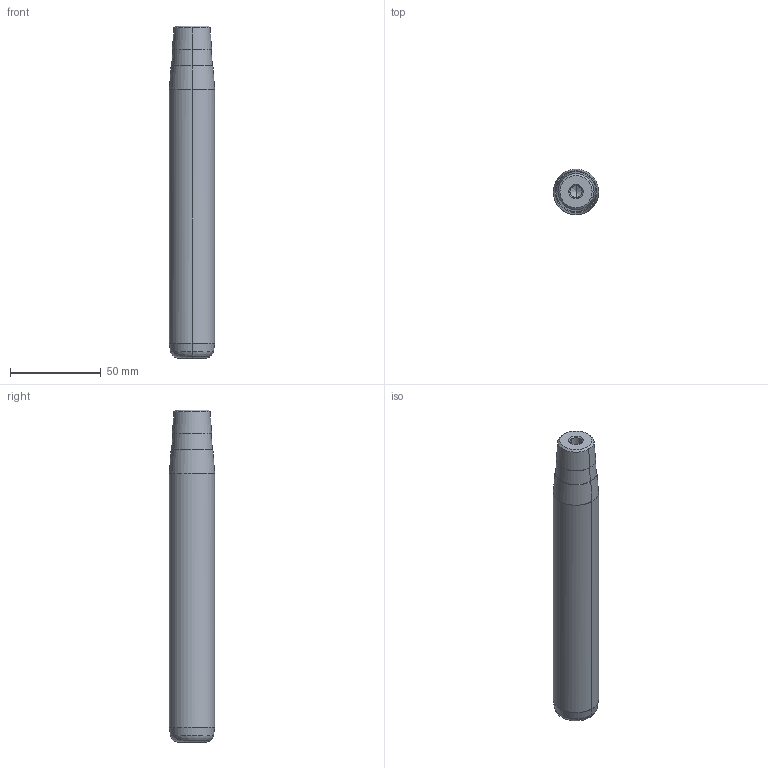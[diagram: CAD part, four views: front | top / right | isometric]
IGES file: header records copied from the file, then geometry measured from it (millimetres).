
Start section: START RECORD GO HERE.
Global section: file name: 722-25x160x183.igs; native system: DASSAULT SYSTEMES CATIA V5 R20 - www.3ds.com; preprocessor: CATIA Version 5 Release 20 ; author: Utente; organization: NB04-ASUS; date: 20210109.090522; units: millimetre
Bounding box: 25 x 25 x 183 mm (x, y, z)
Surface area: 15759.3 mm2 (no closed solid volume)
Topology: 0 solids, 0 shells, 32 faces, 192 edges, 188 vertices
Faces by surface type: revolution 30, plane 2
